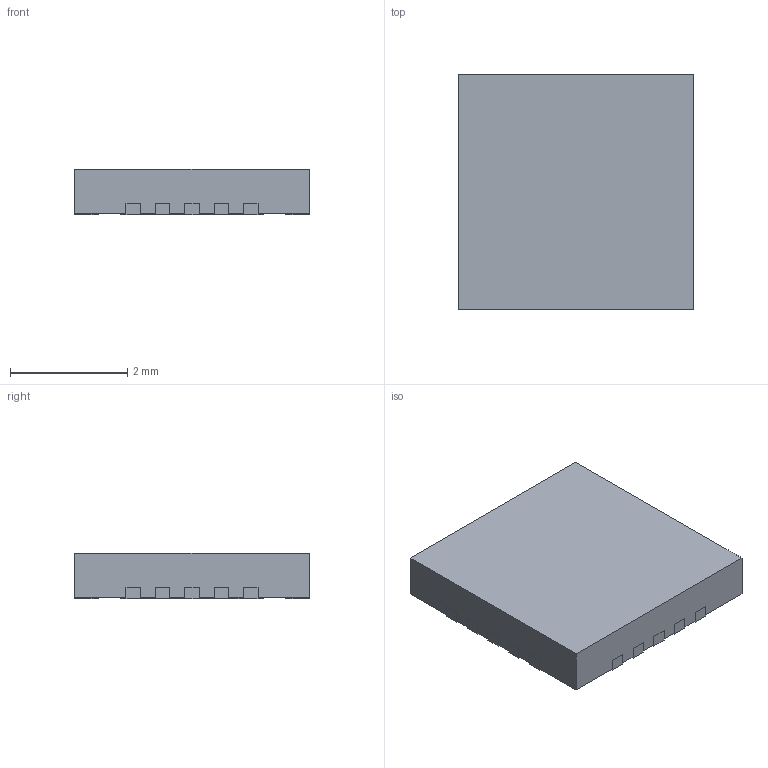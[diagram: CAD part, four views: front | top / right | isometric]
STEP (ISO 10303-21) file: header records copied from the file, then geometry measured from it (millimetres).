
FILE_DESCRIPTION (( 'STEP AP214' ), '1' );
FILE_NAME ('ES20-Non Wettable.STEP', '2018-09-27T18:46:51', ( '' ), ( '' ), 'SwSTEP 2.0', 'SolidWorks 2017', '' );
FILE_SCHEMA (( 'AUTOMOTIVE_DESIGN' ));
Length unit declared in the file: millimetre
Products named in the file (1): ES20-Non Wettable
Bounding box: 4 x 4 x 0.78 mm (x, y, z)
Volume: 12.2 mm3; surface area: 44.8 mm2
Topology: 1 solids, 1 shells, 122 faces, 357 edges, 238 vertices
Faces by surface type: plane 91, cylinder 31
Entity records: 4123 total; most frequent: CARTESIAN_POINT 718, ORIENTED_EDGE 714, DIRECTION 665, EDGE_CURVE 357, VECTOR 295, LINE 295, VERTEX_POINT 238, AXIS2_PLACEMENT_3D 185
